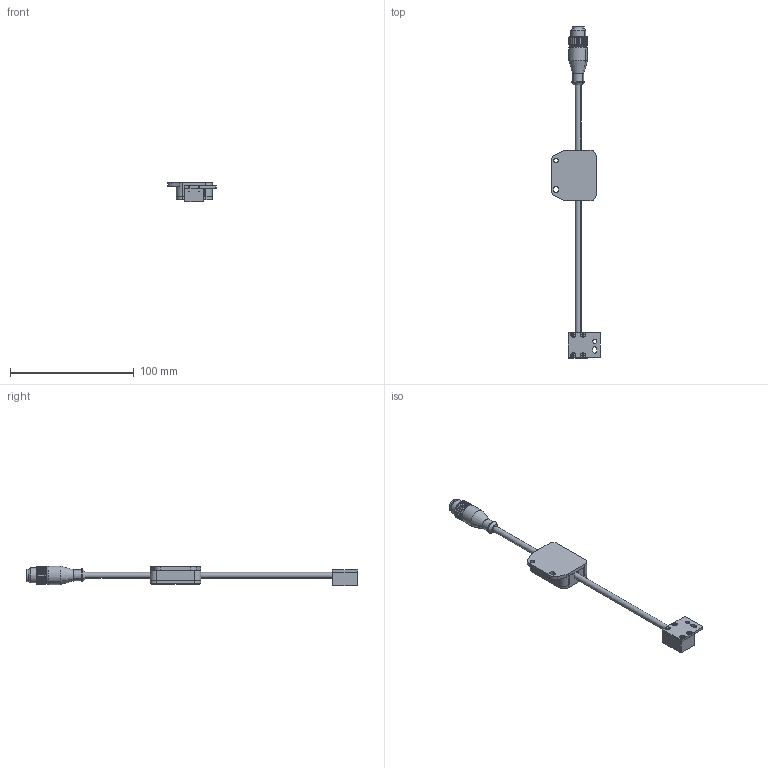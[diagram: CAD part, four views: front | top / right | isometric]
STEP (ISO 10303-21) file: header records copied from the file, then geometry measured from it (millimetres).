
FILE_DESCRIPTION (( 'STEP AP214' ), '1' );
FILE_NAME ('TSPOT1.STEP', '2012-07-13T09:51:23', ( ' ' ), ( '' ), 'SwSTEP 2.0', 'SolidWorks 2009', '' );
FILE_SCHEMA (( 'AUTOMOTIVE_DESIGN' ));
Length unit declared in the file: millimetre
Products named in the file (1): TSPOT1
Bounding box: 39.4 x 268.75 x 16.05 mm (x, y, z)
Volume: 23237.7 mm3; surface area: 20143.3 mm2
Topology: 16 solids, 16 shells, 558 faces, 1434 edges, 915 vertices
Faces by surface type: cylinder 233, plane 205, cone 76, torus 26, bspline 10, sphere 8
Entity records: 26323 total; most frequent: CARTESIAN_POINT 6769, ORIENTED_EDGE 2804, DIRECTION 2787, EDGE_CURVE 1402, AXIS2_PLACEMENT_3D 1016, VERTEX_POINT 907, VECTOR 755, LINE 755
